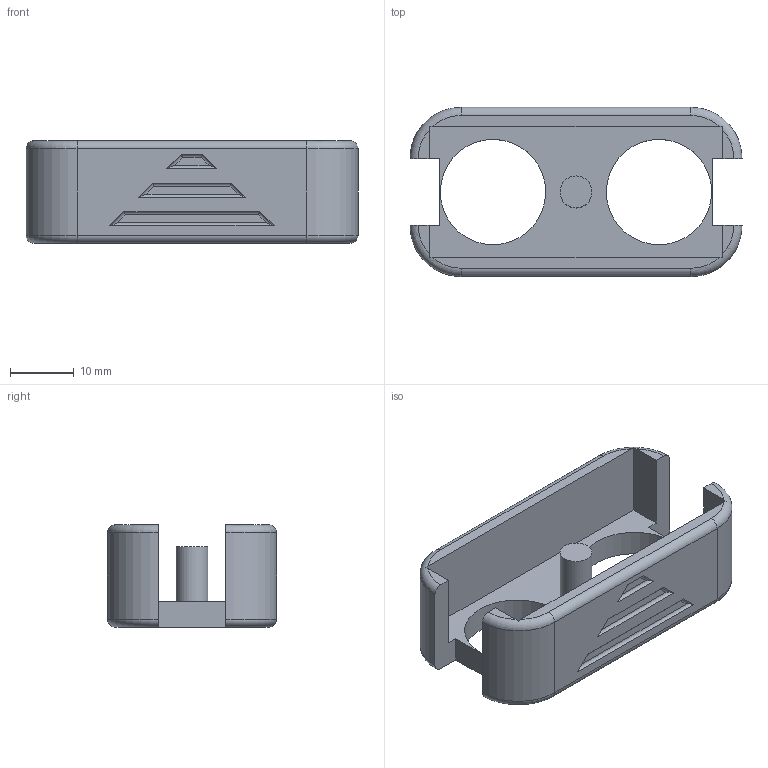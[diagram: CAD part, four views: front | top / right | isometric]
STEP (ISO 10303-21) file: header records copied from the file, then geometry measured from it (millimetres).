
FILE_DESCRIPTION(/* description */ ('Alibre Inc.'),/* implementation_level */ '2;1');
FILE_NAME(/* name */ 'export0',/* time_stamp */ '2018-08-03T14:56:59-04:00',/* author */ (''),/* organization */ (''),/* preprocessor_version */ 'ST-DEVELOPER v17',/* originating_system */ 'Alibre',/* authorisation */ '');
FILE_SCHEMA (('AUTOMOTIVE_DESIGN'));
Length unit declared in the file: millimetre
Bounding box: 52 x 26.5 x 16.1 mm (x, y, z)
Volume: 7112.7 mm3; surface area: 5662.2 mm2
Topology: 1 solids, 1 shells, 57 faces, 145 edges, 94 vertices
Faces by surface type: plane 26, cylinder 23, torus 8
Full cylindrical faces by diameter (mm): 5 x1, 16.5 x2
Entity records: 1947 total; most frequent: CARTESIAN_POINT 580, ORIENTED_EDGE 284, DIRECTION 259, EDGE_CURVE 142, AXIS2_PLACEMENT_3D 104, VERTEX_POINT 94, VECTOR 78, LINE 78
